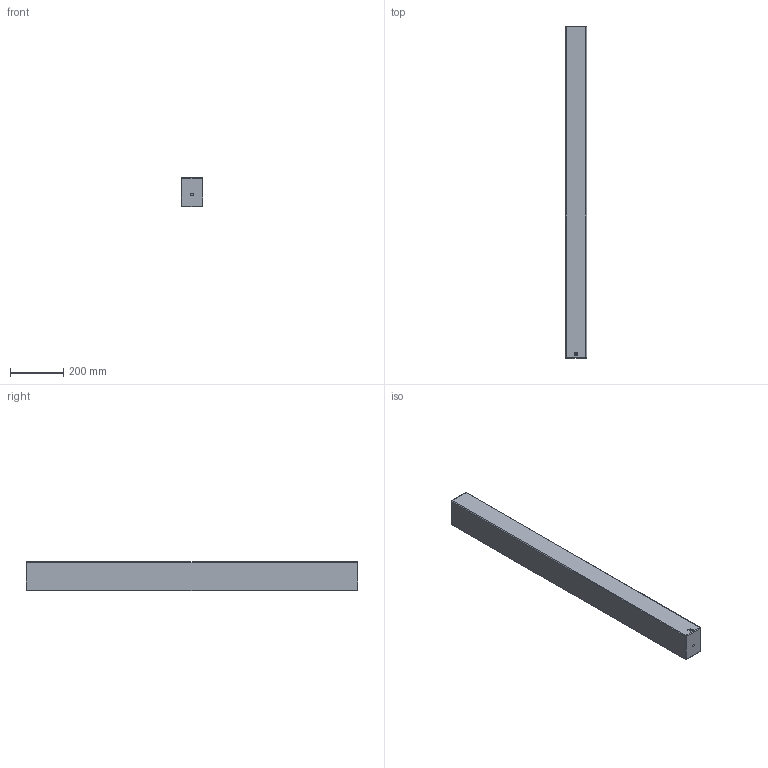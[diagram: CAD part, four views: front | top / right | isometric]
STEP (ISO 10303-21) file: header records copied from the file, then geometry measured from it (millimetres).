
FILE_DESCRIPTION(/* description */ (''),/* implementation_level */ '2;1');
FILE_NAME(/* name */ 'ZL-A 125.stp',/* time_stamp */ '2024-05-21T14:21:41+02:00',/* author */ ('d.streicher'),/* organization */ (''),/* preprocessor_version */ 'ST-DEVELOPER v20',/* originating_system */ 'Autodesk Inventor 2025',/* authorisation */ '');
FILE_SCHEMA (('AUTOMOTIVE_DESIGN { 1 0 10303 214 3 1 1 }'));
Length unit declared in the file: millimetre
Products named in the file (1): ZL-A 125 weiß
Bounding box: 80 x 1250 x 111.5 mm (x, y, z)
Volume: 10800248.4 mm3; surface area: 496977.3 mm2
Topology: 1 solids, 1 shells, 58 faces, 124 edges, 73 vertices
Faces by surface type: plane 30, cylinder 20, sphere 4, bspline 4
Full cylindrical faces by diameter (mm): 8 x2, 9 x2
Entity records: 1749 total; most frequent: CARTESIAN_POINT 373, DIRECTION 270, ORIENTED_EDGE 240, EDGE_CURVE 120, AXIS2_PLACEMENT_3D 95, LINE 80, VECTOR 80, VERTEX_POINT 72
